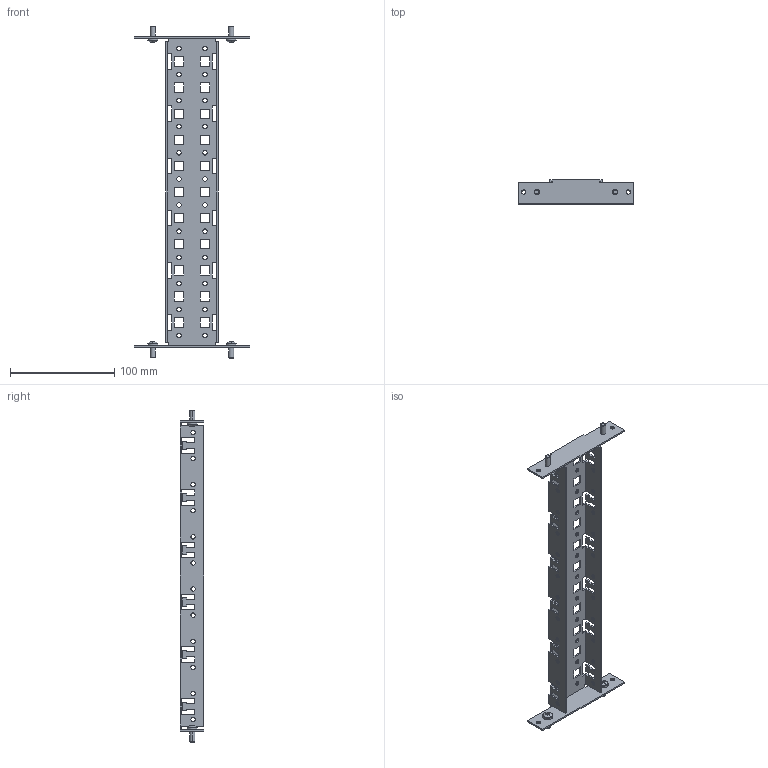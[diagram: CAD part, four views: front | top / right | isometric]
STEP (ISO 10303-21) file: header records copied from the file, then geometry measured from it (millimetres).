
FILE_DESCRIPTION(('Open CASCADE Model'),'2;1');
FILE_NAME('Open CASCADE Shape Model','2025-02-28T17:14:05',('Author'),( 'Open CASCADE'),'Open CASCADE STEP processor 7.8','Open CASCADE 7.8' ,'Unknown');
FILE_SCHEMA(('AUTOMOTIVE_DESIGN { 1 0 10303 214 1 1 1 1 }'));
Length unit declared in the file: millimetre
Products named in the file (3): Compound1; Solid1; Solid2
Assembly tree (5 placements, depth 2):
  Compound1
    Solid1
    Solid2  x4
Bounding box: 111 x 22.5 x 318 mm (x, y, z)
Volume: 41453.7 mm3; surface area: 60446.5 mm2
Topology: 5 solids, 5 shells, 526 faces, 1556 edges, 1012 vertices
Faces by surface type: plane 350, cylinder 128, cone 16, torus 16, bspline 8, sphere 8
Entity records: 16154 total; most frequent: CARTESIAN_POINT 3007, ORIENTED_EDGE 2808, DIRECTION 2562, EDGE_CURVE 1404, LINE 1142, VECTOR 1142, VERTEX_POINT 931, AXIS2_PLACEMENT_3D 710
